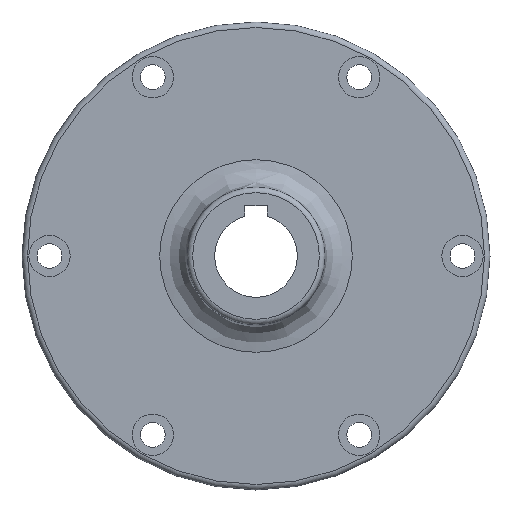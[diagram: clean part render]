
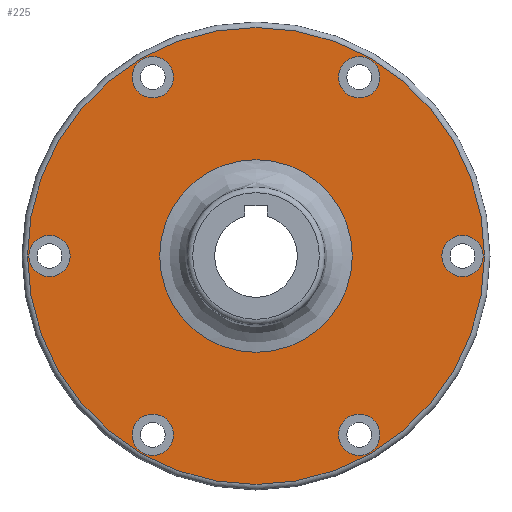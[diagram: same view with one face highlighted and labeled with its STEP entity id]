
A CAD part, left-side view. The second image highlights one B-rep face of the part: STEP entity #225.
In plain terms, the highlighted planar face has unit normal (-1, 0, 0).
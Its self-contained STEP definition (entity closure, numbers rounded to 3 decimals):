
#108=CARTESIAN_POINT('',(43.0,0.,35.0));
#109=VERTEX_POINT('',#108);
#110=CARTESIAN_POINT('',(43.0,0.0,0.0));
#111=DIRECTION('',(-1.0,0.0,0.0));
#112=DIRECTION('',(0.0,0.0,-1.0));
#113=AXIS2_PLACEMENT_3D('',#110,#111,#112);
#114=CIRCLE('',#113,35.0);
#115=EDGE_CURVE('',#109,#109,#114,.T.);
#140=CARTESIAN_POINT('',(43.0,42.142,0.0));
#141=DIRECTION('',(1.0,0.0,0.0));
#142=DIRECTION('',(0.0,0.0,-1.0));
#143=AXIS2_PLACEMENT_3D('',#140,#141,#142);
#144=PLANE('',#143);
#145=CARTESIAN_POINT('',(43.0,0.0,83.));
#146=VERTEX_POINT('',#145);
#147=CARTESIAN_POINT('',(43.0,0.0,0.0));
#148=DIRECTION('',(-1.0,0.0,0.0));
#149=DIRECTION('',(0.0,0.0,1.0));
#150=AXIS2_PLACEMENT_3D('',#147,#148,#149);
#151=CIRCLE('',#150,83.);
#152=EDGE_CURVE('',#146,#146,#151,.T.);
#153=ORIENTED_EDGE('',*,*,#152,.T.);
#154=EDGE_LOOP('',(#153));
#155=FACE_OUTER_BOUND('',#154,.T.);
#156=CARTESIAN_POINT('',(43.0,37.5,72.452));
#157=VERTEX_POINT('',#156);
#158=CARTESIAN_POINT('',(43.0,37.5,64.952));
#159=DIRECTION('',(-1.0,0.0,0.0));
#160=DIRECTION('',(0.0,0.0,1.0));
#161=AXIS2_PLACEMENT_3D('',#158,#159,#160);
#162=CIRCLE('',#161,7.5);
#163=EDGE_CURVE('',#157,#157,#162,.T.);
#164=ORIENTED_EDGE('',*,*,#163,.F.);
#165=EDGE_LOOP('',(#164));
#166=FACE_BOUND('',#165,.T.);
#167=CARTESIAN_POINT('',(43.0,75.0,7.5));
#168=VERTEX_POINT('',#167);
#169=CARTESIAN_POINT('',(43.0,75.0,0.0));
#170=DIRECTION('',(-1.0,0.0,0.0));
#171=DIRECTION('',(0.0,0.0,1.0));
#172=AXIS2_PLACEMENT_3D('',#169,#170,#171);
#173=CIRCLE('',#172,7.5);
#174=EDGE_CURVE('',#168,#168,#173,.T.);
#175=ORIENTED_EDGE('',*,*,#174,.F.);
#176=EDGE_LOOP('',(#175));
#177=FACE_BOUND('',#176,.T.);
#178=CARTESIAN_POINT('',(43.0,37.5,-57.452));
#179=VERTEX_POINT('',#178);
#180=CARTESIAN_POINT('',(43.0,37.5,-64.952));
#181=DIRECTION('',(-1.0,0.0,0.0));
#182=DIRECTION('',(0.0,0.0,1.0));
#183=AXIS2_PLACEMENT_3D('',#180,#181,#182);
#184=CIRCLE('',#183,7.5);
#185=EDGE_CURVE('',#179,#179,#184,.T.);
#186=ORIENTED_EDGE('',*,*,#185,.F.);
#187=EDGE_LOOP('',(#186));
#188=FACE_BOUND('',#187,.T.);
#189=CARTESIAN_POINT('',(43.0,-37.5,-57.452));
#190=VERTEX_POINT('',#189);
#191=CARTESIAN_POINT('',(43.0,-37.5,-64.952));
#192=DIRECTION('',(-1.0,0.0,0.0));
#193=DIRECTION('',(0.0,0.0,1.0));
#194=AXIS2_PLACEMENT_3D('',#191,#192,#193);
#195=CIRCLE('',#194,7.5);
#196=EDGE_CURVE('',#190,#190,#195,.T.);
#197=ORIENTED_EDGE('',*,*,#196,.F.);
#198=EDGE_LOOP('',(#197));
#199=FACE_BOUND('',#198,.T.);
#200=CARTESIAN_POINT('',(43.0,-75.0,7.5));
#201=VERTEX_POINT('',#200);
#202=CARTESIAN_POINT('',(43.0,-75.0,0.));
#203=DIRECTION('',(-1.0,0.0,0.0));
#204=DIRECTION('',(0.0,0.0,1.0));
#205=AXIS2_PLACEMENT_3D('',#202,#203,#204);
#206=CIRCLE('',#205,7.5);
#207=EDGE_CURVE('',#201,#201,#206,.T.);
#208=ORIENTED_EDGE('',*,*,#207,.F.);
#209=EDGE_LOOP('',(#208));
#210=FACE_BOUND('',#209,.T.);
#211=CARTESIAN_POINT('',(43.0,-37.5,72.452));
#212=VERTEX_POINT('',#211);
#213=CARTESIAN_POINT('',(43.0,-37.5,64.952));
#214=DIRECTION('',(-1.0,0.0,0.0));
#215=DIRECTION('',(0.0,0.0,1.0));
#216=AXIS2_PLACEMENT_3D('',#213,#214,#215);
#217=CIRCLE('',#216,7.5);
#218=EDGE_CURVE('',#212,#212,#217,.T.);
#219=ORIENTED_EDGE('',*,*,#218,.F.);
#220=EDGE_LOOP('',(#219));
#221=FACE_BOUND('',#220,.T.);
#222=ORIENTED_EDGE('',*,*,#115,.F.);
#223=EDGE_LOOP('',(#222));
#224=FACE_BOUND('',#223,.T.);
#225=ADVANCED_FACE('',(#155,#166,#177,#188,#199,#210,#221,#224),#144,.F.);
